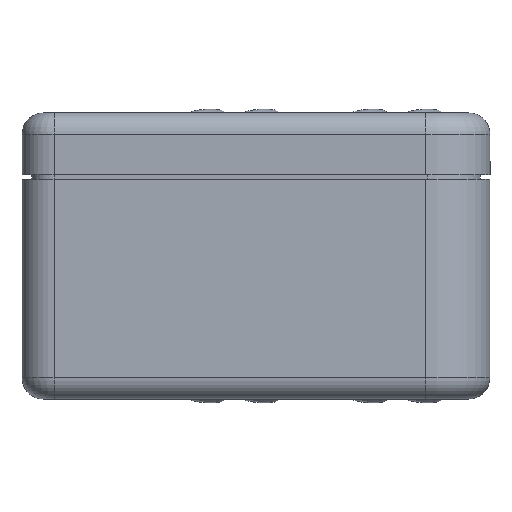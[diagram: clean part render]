
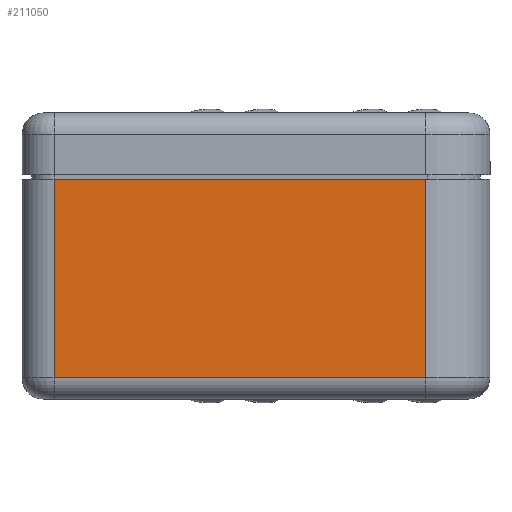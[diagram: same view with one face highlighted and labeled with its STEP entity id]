
A CAD part, front view. The second image highlights one B-rep face of the part: STEP entity #211050.
In plain terms, the highlighted planar face has unit normal (0, -1, 0).
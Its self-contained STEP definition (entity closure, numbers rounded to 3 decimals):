
#210340=CARTESIAN_POINT('',(-13.372,16.997,
8.625));
#210350=VERTEX_POINT('',#210340);
#210600=CARTESIAN_POINT('',(4.038,16.997,
8.625));
#210610=VERTEX_POINT('',#210600);
#210660=CARTESIAN_POINT('',(-0.006,16.997,
8.625));
#210670=DIRECTION('',(-1.,0.,0.));
#210680=VECTOR('',#210670,1.);
#210690=LINE('',#210660,#210680);
#210700=EDGE_CURVE('',#210610,#210350,#210690,.T.);
#210750=CARTESIAN_POINT('',(-8.316,16.997,
17.501));
#210760=DIRECTION('',(0.,1.,0.));
#210770=DIRECTION('',(-1.,0.,0.));
#210780=AXIS2_PLACEMENT_3D('',#210750,#210760,#210770);
#210790=PLANE('',#210780);
#210800=CARTESIAN_POINT('',(-13.372,16.997,
28.55));
#210810=DIRECTION('',(0.,0.,1.));
#210820=VECTOR('',#210810,1.);
#210830=LINE('',#210800,#210820);
#210840=CARTESIAN_POINT('',(-13.372,16.997,17.925));
#210850=VERTEX_POINT('',#210840);
#210860=EDGE_CURVE('',#210350,#210850,#210830,.T.);
#210870=ORIENTED_EDGE('',*,*,#210860,.F.);
#210880=CARTESIAN_POINT('',(0.,16.997,
17.925));
#210890=DIRECTION('',(1.,0.,0.));
#210900=VECTOR('',#210890,1.);
#210910=LINE('',#210880,#210900);
#210920=CARTESIAN_POINT('',(4.038,16.997,17.925));
#210930=VERTEX_POINT('',#210920);
#210940=EDGE_CURVE('',#210850,#210930,#210910,.T.);
#210950=ORIENTED_EDGE('',*,*,#210940,.F.);
#210960=CARTESIAN_POINT('',(4.038,16.997,
28.55));
#210970=DIRECTION('',(0.,0.,-1.));
#210980=VECTOR('',#210970,1.);
#210990=LINE('',#210960,#210980);
#211000=EDGE_CURVE('',#210930,#210610,#210990,.T.);
#211010=ORIENTED_EDGE('',*,*,#211000,.F.);
#211020=ORIENTED_EDGE('',*,*,#210700,.F.);
#211030=EDGE_LOOP('',(#211020,#211010,#210950,#210870));
#211040=FACE_OUTER_BOUND('',#211030,.T.);
#211050=ADVANCED_FACE('',(#211040),#210790,.F.);
